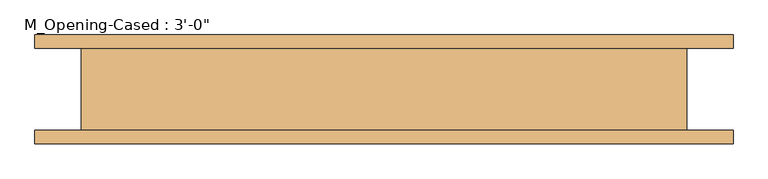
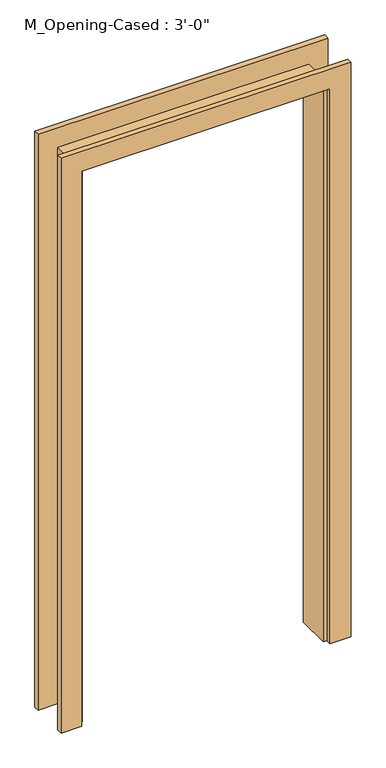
"""IFC4 building model written with IfcOpenShell, lengths in millimetres: door geometry."""

from ifc_helpers import new_model, si_unit, frame, origin, place, context, project, spatial, polyline, outline, extrude, faceted_brep, source, transform, mapped, element, save


def door_0b3bd6c5(model_context):
    return source(origin(), model_context, "Body", "SolidModel", [
        extrude(outline(polyline([(0.0, -459.0386567), (2127.25, -459.0386567), (2127.25, 442.6613433), (0.0, 442.6613433), (0.0, 517.6613433), (2202.25, 517.6613433), (2202.25, -534.0386567), (0.0, -534.0386567), (0.0, -459.0386567)])), frame((0.0, -81.9125, 0.0), z_axis=(0.0, 1.0, 0.0), x_axis=(0.0, 0.0, 1.0)), (0.0, 0.0, 1.0), 20.0),
        extrude(outline(polyline([(0.0, 517.6613433), (2207.65, 517.6613433), (2207.65, -534.0386567), (0.0, -534.0386567), (0.0, -459.0386567), (2127.25, -459.0386567), (2127.25, 442.6613433), (0.0, 442.6613433), (0.0, 517.6613433)])), frame((0.0, 61.9125, 0.0), z_axis=(0.0, 1.0, 0.0), x_axis=(0.0, 0.0, 1.0)), (0.0, 0.0, 1.0), 20.0),
        faceted_brep([(429.0113433, 61.9125, 0.0), (448.0613433, 61.9125, 0.0), (448.0613433, -61.9125, 0.0), (429.0113433, -61.9125, 0.0), (429.0113433, 61.9125, 2113.6), (448.0613433, 61.9125, 2132.65), (448.0613433, -61.9125, 2132.65), (429.0113433, -61.9125, 2113.6), (-445.3886567, 61.9125, 0.0), (-445.3886567, -61.9125, 0.0), (-464.4386567, -61.9125, 0.0), (-464.4386567, 61.9125, 0.0), (-445.3886567, 61.9125, 2113.6), (-445.3886567, -61.9125, 2113.6), (-464.4386567, -61.9125, 2132.65), (-464.4386567, 61.9125, 2132.65)], [[[0, 1, 2, 3]], [[1, 0, 4, 5]], [[2, 1, 5, 6]], [[3, 2, 6, 7]], [[0, 3, 7, 4]], [[8, 9, 10, 11]], [[12, 13, 9, 8]], [[13, 14, 10, 9]], [[14, 15, 11, 10]], [[15, 12, 8, 11]], [[5, 4, 12, 15]], [[6, 5, 15, 14]], [[7, 6, 14, 13]], [[4, 7, 13, 12]]]),
    ])


if __name__ == "__main__":
    model = new_model("IFC4")
    model_context = context("Model", 3, world=origin())
    ifc_project = project(units=[si_unit("LENGTHUNIT", "METRE", prefix="MILLI")], contexts=[model_context])
    site = spatial("IfcSite", under=ifc_project)
    building = spatial("IfcBuilding", under=site)
    placement = place(None, origin())
    door_shape = door_0b3bd6c5(model_context)
    element("IfcDoor", 1, ObjectType="M_Opening-Cased : 3'-0\"", at=placement, inside=building, context=model_context, shape_type="MappedRepresentation", body=[
        mapped(door_shape, transform((0.0, 0.0, 0.0), x_axis=(1.0, 0.0, 0.0), y_axis=(0.0, 1.0, 0.0), z_axis=(0.0, 0.0, 1.0))),
    ])
    save(model, "model.ifc")
